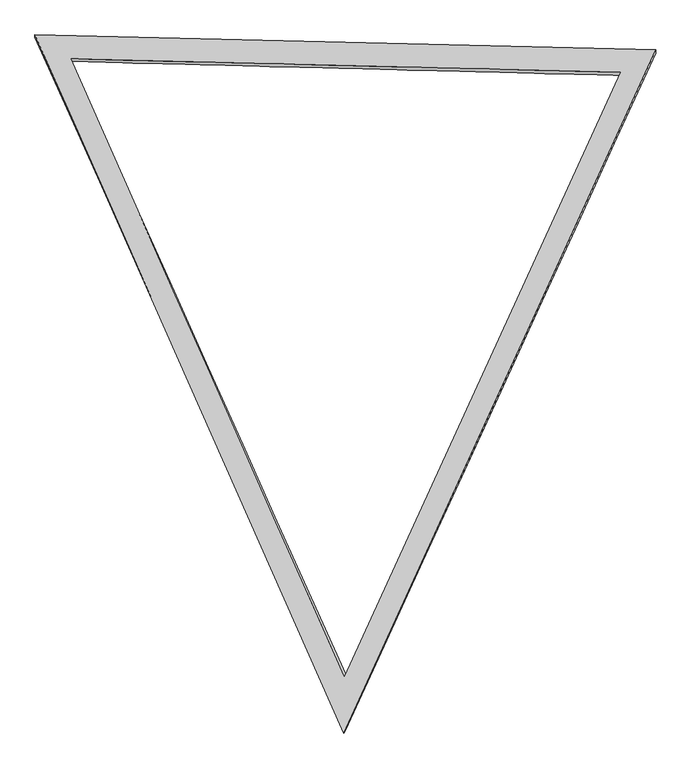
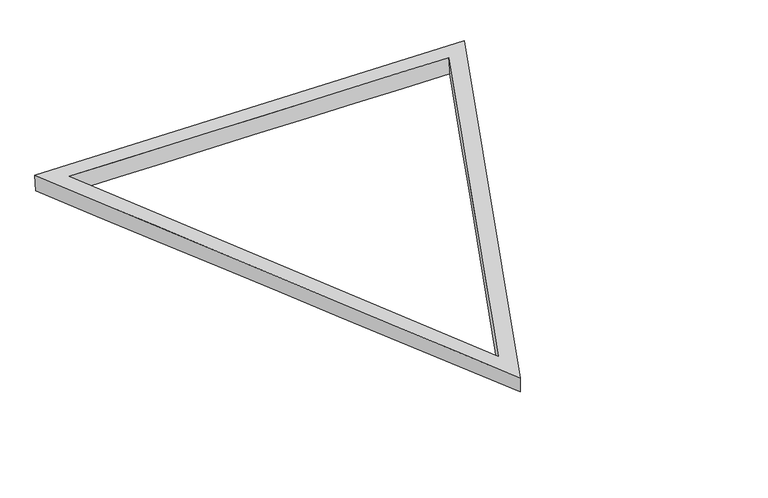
"""IFC4 building model written with IfcOpenShell, lengths in millimetres: plate geometry."""

from ifc_helpers import new_model, si_unit, frame, origin, place, context, project, spatial, source, transform, mapped, element, save
from ifc_brep_helpers import plane_surface, spline_surface, advanced_brep


def plate_5596ec4e(model_context):
    return source(origin(), model_context, "Body", "AdvancedBrep", [
        advanced_brep(
        [(3696.031902, 6938.218751, 0.0), (3694.7637476, 6958.814511, 202.1470252), (6086.4937741, 1554.2253728, 201.6590188), (6098.1528351, 1572.7670666, 0.0), (8501.2606808, 6843.6129496, 201.1409357), (8500.2737681, 6814.8452927, 0.0), (6096.0, 1080.2914044, 0.0), (8813.2538257, 7010.0749214, 0.0), (8814.0062667, 7039.3754563, 201.0749922), (6083.6090394, 1058.6204884, 201.6607932), (3378.7461743, 7149.6336742, 0.0), (3379.2598062, 7169.6348296, 202.2125861)],
        [
            (0, 1),
            (1, 2),
            (2, 3),
            (3, 0),
            (2, 4),
            (4, 5),
            (5, 3),
            (0, 5),
            (4, 1),
            (6, 7),
            (7, 8),
            (8, 9),
            (9, 6),
            (7, 10),
            (10, 11),
            (11, 8),
            (9, 11),
            (10, 6),
        ],
        [
            spline_surface(1, 1, [[(3696.031902, 6938.218751, 0.0), (6098.1528351, 1572.7670666, 0.0)], [(3694.7637476, 6958.814511, 202.1470252), (6086.4937741, 1554.2253728, 201.6590188)]], [2, 2], [2, 2], [0.0, 1.0], [0.0, 1.0]),
            spline_surface(1, 1, [[(6098.1528351, 1572.7670666, 0.0), (8500.2737681, 6814.8452927, 0.0)], [(6086.4937741, 1554.2253728, 201.6590188), (8501.2606808, 6843.6129496, 201.1409357)]], [2, 2], [2, 2], [0.0, 1.0], [0.0, 1.0]),
            spline_surface(1, 1, [[(8500.2737681, 6814.8452927, 0.0), (3696.031902, 6938.218751, 0.0)], [(8501.2606808, 6843.6129496, 201.1409357), (3694.7637476, 6958.814511, 202.1470252)]], [2, 2], [2, 2], [0.0, 1.0], [0.0, 1.0]),
            spline_surface(1, 1, [[(6096.0, 1080.2914044, 0.0), (6083.6090394, 1058.6204884, 201.6607932)], [(8813.2538257, 7010.0749214, 0.0), (8814.0062667, 7039.3754563, 201.0749922)]], [2, 2], [2, 2], [0.0, 1.0], [0.0, 1.0]),
            spline_surface(1, 1, [[(8813.2538257, 7010.0749214, 0.0), (8814.0062667, 7039.3754563, 201.0749922)], [(3378.7461743, 7149.6336742, 0.0), (3379.2598062, 7169.6348296, 202.2125861)]], [2, 2], [2, 2], [0.0, 1.0], [0.0, 1.0]),
            spline_surface(1, 1, [[(3378.7461743, 7149.6336742, 0.0), (3379.2598062, 7169.6348296, 202.2125861)], [(6096.0, 1080.2914044, 0.0), (6083.6090394, 1058.6204884, 201.6607932)]], [2, 2], [2, 2], [0.0, 1.0], [0.0, 1.0]),
            plane_surface(frame((6092.2917041, 5089.2102581, 201.6494571), z_axis=(0.00020937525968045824, 2.361460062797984e-06, 0.999999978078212), x_axis=(0.4046812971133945, -0.9144577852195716, -8.257079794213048e-05))),
            plane_surface(frame((6096.0, 5080.0, 0.0), z_axis=(-2.0483762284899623e-12, 0.0, -1.0), x_axis=(-0.4086193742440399, 0.9127048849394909, 0.0))),
        ],
        [
            (0, [[1, 2, 3, 4]]),
            (1, [[-3, 5, 6, 7]]),
            (2, [[-1, 8, -6, 9]]),
            (3, [[10, 11, 12, 13]]),
            (4, [[-11, 14, 15, 16]]),
            (5, [[-13, 17, -15, 18]]),
            (6, [[-12, -16, -17], [-2, -9, -5]]),
            (7, [[-10, -18, -14], [-4, -7, -8]]),
        ],
    ),
    ])


if __name__ == "__main__":
    model = new_model("IFC4")
    model_context = context("Model", 3, world=origin())
    ifc_project = project(units=[si_unit("LENGTHUNIT", "METRE", prefix="MILLI")], contexts=[model_context])
    site = spatial("IfcSite", under=ifc_project)
    building = spatial("IfcBuilding", under=site)
    placement = place(None, origin())
    plate_shape = plate_5596ec4e(model_context)
    element("IfcPlate", 1, ObjectType="tn_cpanel_patbase_triangle_flat_seamless_frame_02_cylinder : tn_triangle_seamless_frame_t8\"xh8\"", at=placement, inside=building, context=model_context, shape_type="MappedRepresentation", body=[
        mapped(plate_shape, transform((0.0, 0.0, 0.0), x_axis=(1.0, 0.0, 0.0), y_axis=(0.0, 1.0, 0.0), z_axis=(0.0, 0.0, 1.0))),
    ])
    save(model, "model.ifc")
